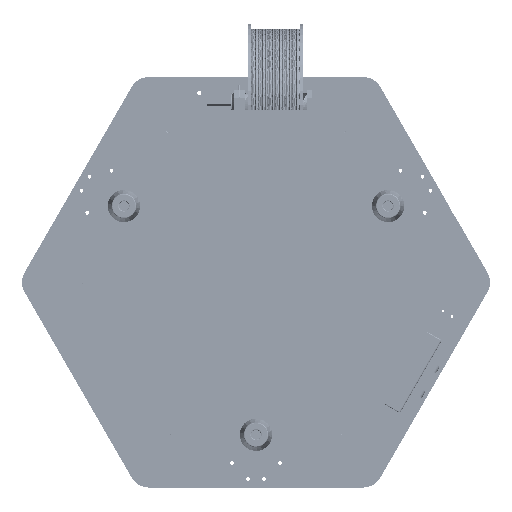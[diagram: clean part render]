
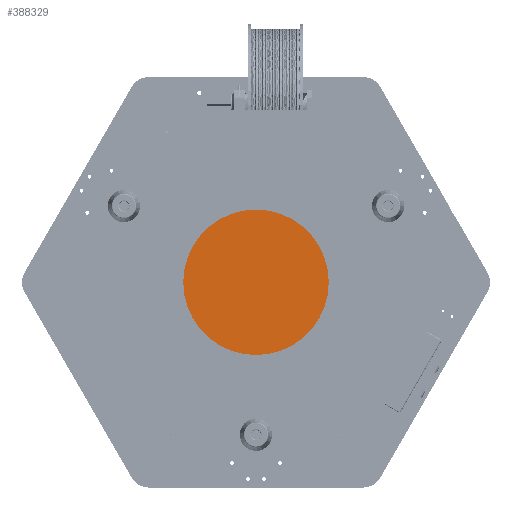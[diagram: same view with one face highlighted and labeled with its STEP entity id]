
A CAD part, front view. The second image highlights one B-rep face of the part: STEP entity #388329.
In plain terms, the highlighted planar face has unit normal (0, -1, 0) as drawn and (0, 1, 0) by its records, which use the part's own axes.
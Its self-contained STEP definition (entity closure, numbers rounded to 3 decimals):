
#26585 = CARTESIAN_POINT ( 'NONE',  ( 0., 6., 0. ) ) ;
#34237 = VERTEX_POINT ( 'NONE', #383355 ) ;
#49635 = CARTESIAN_POINT ( 'NONE',  ( 0., 6., 0. ) ) ;
#58850 = DIRECTION ( 'NONE',  ( 0., 0., 1. ) ) ;
#81926 = DIRECTION ( 'NONE',  ( 0., 0., 1. ) ) ;
#137194 = AXIS2_PLACEMENT_3D ( 'NONE', #49635, #274359, #81926 ) ;
#171845 = CARTESIAN_POINT ( 'NONE',  ( 0., 6., 0. ) ) ;
#186756 = PLANE ( 'NONE',  #395332 ) ;
#187744 = VERTEX_POINT ( 'NONE', #338974 ) ;
#204102 = DIRECTION ( 'NONE',  ( 0., 0., 1. ) ) ;
#214228 = ORIENTED_EDGE ( 'NONE', *, *, #354066, .T. ) ;
#251278 = DIRECTION ( 'NONE',  ( 0., 1., 0. ) ) ;
#263815 = EDGE_CURVE ( 'NONE', #187744, #34237, #345831, .T. ) ;
#264792 = AXIS2_PLACEMENT_3D ( 'NONE', #171845, #396738, #204102 ) ;
#274359 = DIRECTION ( 'NONE',  ( 0., 1., 0. ) ) ;
#291586 = EDGE_LOOP ( 'NONE', ( #322497, #214228 ) ) ;
#322497 = ORIENTED_EDGE ( 'NONE', *, *, #263815, .T. ) ;
#334173 = FACE_OUTER_BOUND ( 'NONE', #291586, .T. ) ;
#338974 = CARTESIAN_POINT ( 'NONE',  ( 0., 6., -175. ) ) ;
#345831 = CIRCLE ( 'NONE', #137194, 175. ) ;
#354066 = EDGE_CURVE ( 'NONE', #34237, #187744, #397110, .T. ) ;
#383355 = CARTESIAN_POINT ( 'NONE',  ( 0., 6., 175. ) ) ;
#388329 = ADVANCED_FACE ( 'NONE', ( #334173 ), #186756, .T. ) ;
#395332 = AXIS2_PLACEMENT_3D ( 'NONE', #26585, #251278, #58850 ) ;
#396738 = DIRECTION ( 'NONE',  ( 0., 1., 0. ) ) ;
#397110 = CIRCLE ( 'NONE', #264792, 175. ) ;
